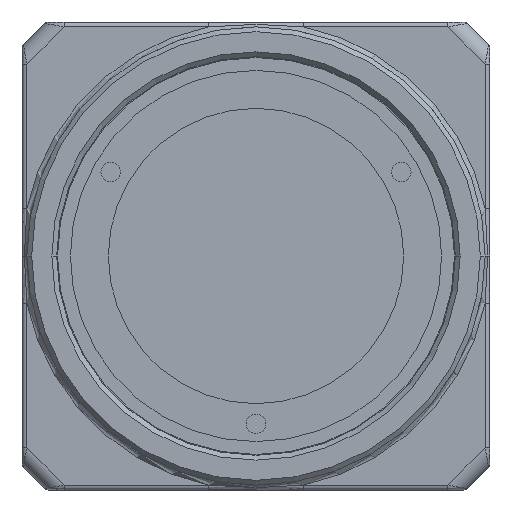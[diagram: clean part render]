
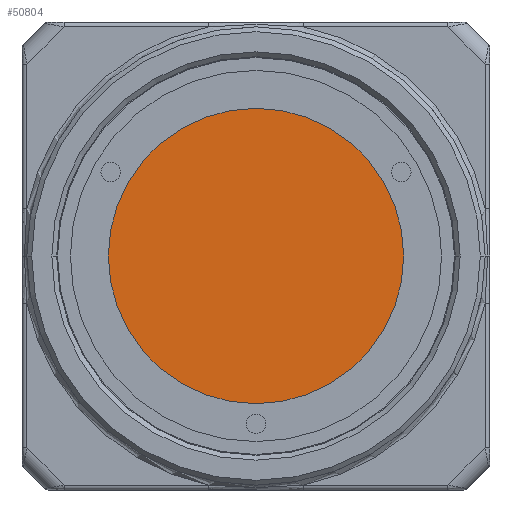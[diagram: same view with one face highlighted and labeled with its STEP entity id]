
A CAD part, left-side view. The second image highlights one B-rep face of the part: STEP entity #50804.
In plain terms, the highlighted planar face has unit normal (-1, 0, 0).
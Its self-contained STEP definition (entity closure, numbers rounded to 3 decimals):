
#12843=CARTESIAN_POINT('',(0.1,0.,0.));
#12844=DIRECTION('',(1.,0.,0.));
#12845=DIRECTION('',(0.,1.,0.));
#12846=AXIS2_PLACEMENT_3D('',#12843,#12844,#12845);
#12848=CARTESIAN_POINT('',(0.1,0.,0.));
#12849=DIRECTION('',(1.,0.,0.));
#12850=DIRECTION('',(0.,-1.,0.));
#12851=AXIS2_PLACEMENT_3D('',#12848,#12849,#12850);
#37507=CARTESIAN_POINT('',(0.1,9.15,0.));
#37508=CARTESIAN_POINT('',(0.1,-9.15,0.));
#37509=VERTEX_POINT('',#37507);
#37510=VERTEX_POINT('',#37508);
#50794=CARTESIAN_POINT('',(0.1,0.,0.));
#50795=DIRECTION('',(1.,0.,0.));
#50796=DIRECTION('',(0.,-1.,0.));
#50797=AXIS2_PLACEMENT_3D('',#50794,#50795,#50796);
#50798=PLANE('',#50797);
#50799=ORIENTED_EDGE('',*,*,#50784,.T.);
#50801=ORIENTED_EDGE('',*,*,#50800,.T.);
#50802=EDGE_LOOP('',(#50799,#50801));
#50803=FACE_OUTER_BOUND('',#50802,.F.);
#50804=ADVANCED_FACE('',(#50803),#50798,.F.);
#12847=CIRCLE('',#12846,9.15);
#12852=CIRCLE('',#12851,9.15);
#50784=EDGE_CURVE('',#37509,#37510,#12847,.T.);
#50800=EDGE_CURVE('',#37510,#37509,#12852,.T.);
